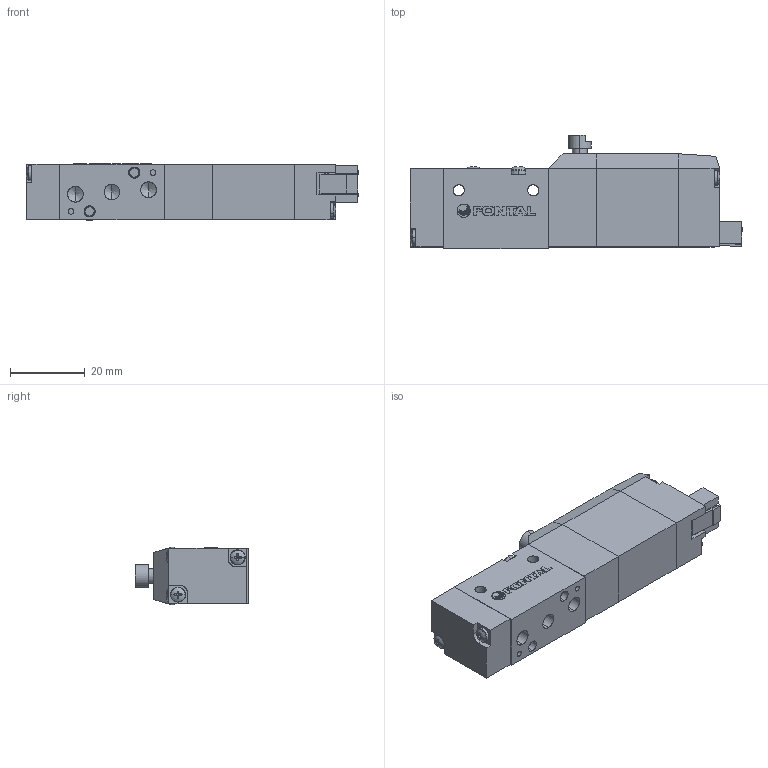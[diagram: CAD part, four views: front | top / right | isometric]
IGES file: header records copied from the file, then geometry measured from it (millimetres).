
Start section: SolidWorks IGES file using analytic representation for surfaces
Global section: file name: D:\Custom\3D繪製\PC\PCL5\RCL245#-M5-#-SP-#.IGS,1; native system: 5HSolidWorks 2014; preprocessor: SolidWorks 2014; author: Chieh_Lu; date: 150916.143003; units: millimetre
Bounding box: 89.07 x 30.5 x 15.4 mm (x, y, z)
Surface area: 13297.9 mm2 (no closed solid volume)
Topology: 0 solids, 0 shells, 525 faces, 4564 edges, 4542 vertices
Faces by surface type: bspline 344, revolution 181
